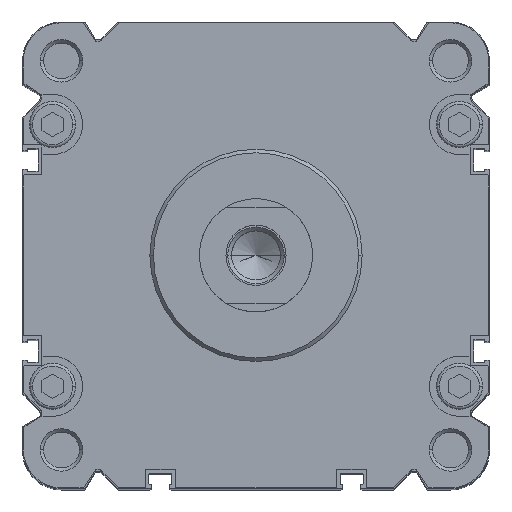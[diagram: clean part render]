
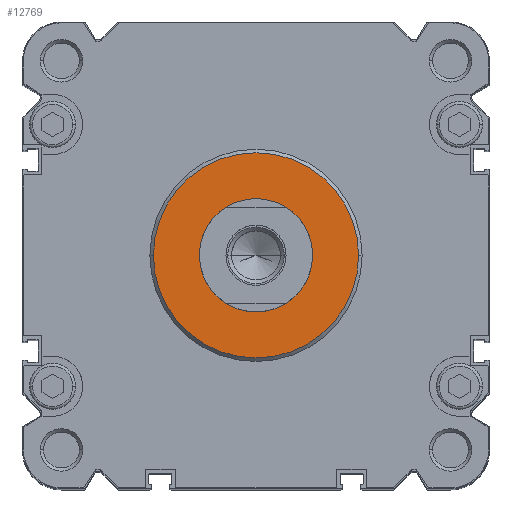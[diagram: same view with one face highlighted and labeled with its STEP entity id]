
A CAD part, top view. The second image highlights one B-rep face of the part: STEP entity #12769.
In plain terms, the highlighted planar face has unit normal (0, 0, 1).
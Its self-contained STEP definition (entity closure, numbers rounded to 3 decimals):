
#302 = VERTEX_POINT ( 'NONE', #18569 ) ;
#497 = EDGE_CURVE ( 'NONE', #302, #11527, #14294, .T. ) ;
#1168 = EDGE_LOOP ( 'NONE', ( #10763, #5599 ) ) ;
#1216 = CARTESIAN_POINT ( 'NONE',  ( 0., 0., 4. ) ) ;
#1319 = DIRECTION ( 'NONE',  ( 0., 0., -1. ) ) ;
#2405 = AXIS2_PLACEMENT_3D ( 'NONE', #9747, #6546, #3544 ) ;
#2993 = AXIS2_PLACEMENT_3D ( 'NONE', #7035, #13339, #19852 ) ;
#3405 = FACE_OUTER_BOUND ( 'NONE', #1168, .T. ) ;
#3410 = CIRCLE ( 'NONE', #16375, 29. ) ;
#3542 = DIRECTION ( 'NONE',  ( 0., 0., -1. ) ) ;
#3544 = DIRECTION ( 'NONE',  ( 1., 0., 0. ) ) ;
#4707 = ORIENTED_EDGE ( 'NONE', *, *, #15310, .T. ) ;
#5599 = ORIENTED_EDGE ( 'NONE', *, *, #15152, .F. ) ;
#5761 = EDGE_LOOP ( 'NONE', ( #18809, #4707 ) ) ;
#6384 = VERTEX_POINT ( 'NONE', #6865 ) ;
#6546 = DIRECTION ( 'NONE',  ( 0., 0., -1. ) ) ;
#6587 = DIRECTION ( 'NONE',  ( 1., 0., 0. ) ) ;
#6865 = CARTESIAN_POINT ( 'NONE',  ( -16., 0., 4. ) ) ;
#7035 = CARTESIAN_POINT ( 'NONE',  ( 0., -29., 4. ) ) ;
#7365 = VERTEX_POINT ( 'NONE', #18746 ) ;
#8367 = CARTESIAN_POINT ( 'NONE',  ( 0., 0., 4. ) ) ;
#8897 = CIRCLE ( 'NONE', #2405, 16. ) ;
#9691 = DIRECTION ( 'NONE',  ( 0., 0., -1. ) ) ;
#9747 = CARTESIAN_POINT ( 'NONE',  ( 0., 0., 4. ) ) ;
#9926 = FACE_BOUND ( 'NONE', #5761, .T. ) ;
#10763 = ORIENTED_EDGE ( 'NONE', *, *, #497, .F. ) ;
#11495 = CARTESIAN_POINT ( 'NONE',  ( 0., 0., 4. ) ) ;
#11527 = VERTEX_POINT ( 'NONE', #19122 ) ;
#12769 = ADVANCED_FACE ( 'NONE', ( #3405, #9926 ), #16760, .T. ) ;
#13339 = DIRECTION ( 'NONE',  ( 0., 0., 1. ) ) ;
#13972 = AXIS2_PLACEMENT_3D ( 'NONE', #8367, #3542, #19780 ) ;
#14011 = EDGE_CURVE ( 'NONE', #7365, #6384, #19068, .T. ) ;
#14294 = CIRCLE ( 'NONE', #16677, 29. ) ;
#15152 = EDGE_CURVE ( 'NONE', #11527, #302, #3410, .T. ) ;
#15310 = EDGE_CURVE ( 'NONE', #6384, #7365, #8897, .T. ) ;
#15757 = DIRECTION ( 'NONE',  ( 1., 0., 0. ) ) ;
#16375 = AXIS2_PLACEMENT_3D ( 'NONE', #1216, #1319, #15757 ) ;
#16677 = AXIS2_PLACEMENT_3D ( 'NONE', #11495, #9691, #6587 ) ;
#16760 = PLANE ( 'NONE',  #2993 ) ;
#18569 = CARTESIAN_POINT ( 'NONE',  ( 29., 0., 4. ) ) ;
#18746 = CARTESIAN_POINT ( 'NONE',  ( 16., 0., 4. ) ) ;
#18809 = ORIENTED_EDGE ( 'NONE', *, *, #14011, .T. ) ;
#19068 = CIRCLE ( 'NONE', #13972, 16. ) ;
#19122 = CARTESIAN_POINT ( 'NONE',  ( -29., 0., 4. ) ) ;
#19780 = DIRECTION ( 'NONE',  ( 1., 0., 0. ) ) ;
#19852 = DIRECTION ( 'NONE',  ( -1., 0., 0. ) ) ;
